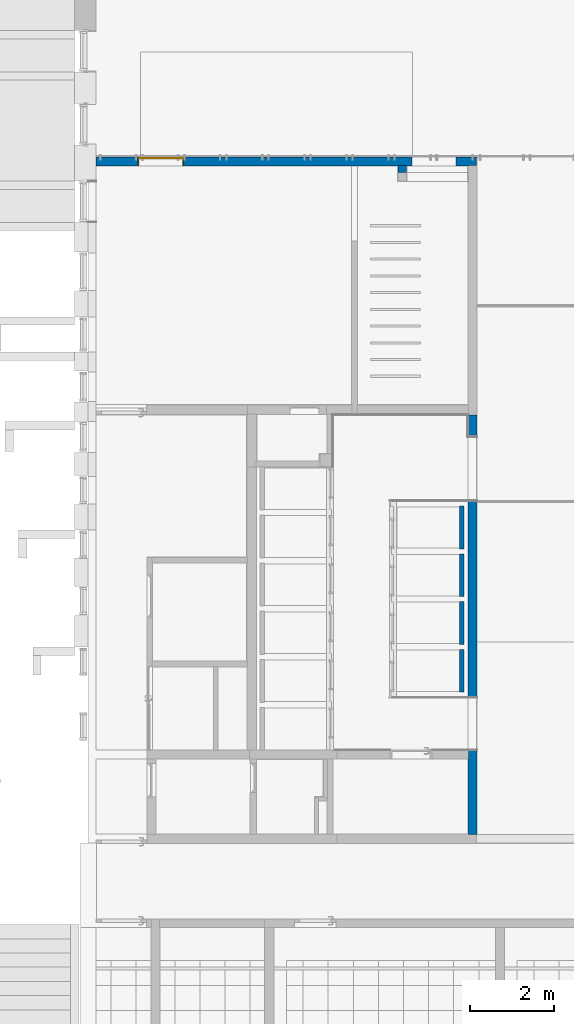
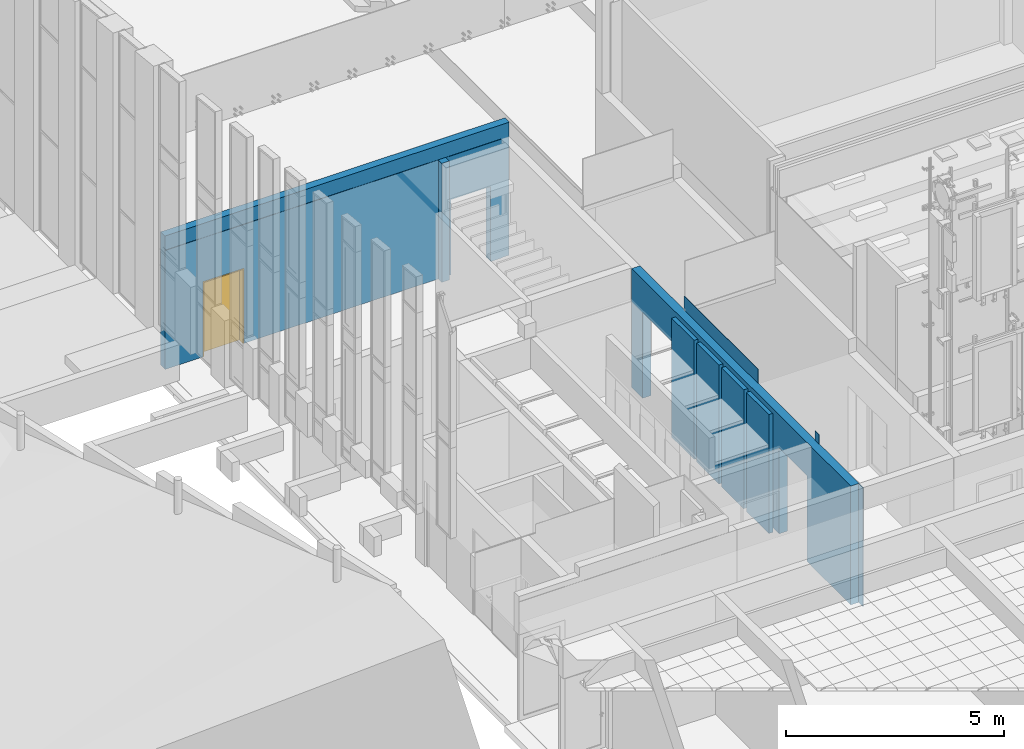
# One storey, part 120 of 246: 7 walls, 1 door, 4 openings.
"""IFC2X3 building model written with IfcOpenShell, lengths in millimetres."""

import ifcopenshell
import ifcopenshell.guid

model = None  # the IFC model being written
_history = None  # IfcOwnerHistory: only IFC2X3 demands one
_inside = {}  # id of a spatial element -> (the spatial element, [elements in it])
_under = {}  # id of a project, library or spatial element -> (it, [spatial elements below it])
_declared = {}  # id of a project -> (the project, [libraries it declares])
_typed = {}  # id of a type object -> (the type object, [elements of that type])
_made_of = {}  # id of a material, layer set ... -> (it, [elements and type objects made of it])


def new_model(schema):
    """Start an empty IFC model of exactly this schema.

    Asked for "IFC4X3", IfcOpenShell would pick the latest addendum, in which some entities
    have other attributes; the version numbers below select the first issue.
    IFC2X3 requires an IfcOwnerHistory on every rooted entity: one is made here for all.
    """
    global model, _history
    if schema == "IFC4X3":
        model = ifcopenshell.file(schema_version=(4, 3, 0, 0))
    else:
        model = ifcopenshell.file(schema=schema)
    _inside.clear()
    _under.clear()
    _declared.clear()
    _typed.clear()
    _made_of.clear()
    _history = None
    if model.schema == "IFC2X3":
        org = make("IfcOrganization", Name="unknown")
        user = make(
            "IfcPersonAndOrganization",
            ThePerson=make("IfcPerson", FamilyName="unknown"),
            TheOrganization=org,
        )
        app = make(
            "IfcApplication",
            ApplicationDeveloper=org,
            Version="unknown",
            ApplicationFullName="unknown",
            ApplicationIdentifier="unknown",
        )
        _history = make(
            "IfcOwnerHistory",
            OwningUser=user,
            OwningApplication=app,
            ChangeAction="ADDED",
            CreationDate=0,
        )
    return model


def make(cls, **values):
    """One entity of the class cls with the attributes given. An attribute that is None is left unset."""
    return model.create_entity(
        cls, **{name: value for name, value in values.items() if value is not None}
    )


def entity(cls, *values):
    """Any entity or typed value of the class cls, its attributes in the order of the schema. None: left unset."""
    e = model.create_entity(cls)
    for i, value in enumerate(values):
        if value is not None:
            e[i] = value
    return e


def rooted(cls, **values):
    """An entity with a GlobalId (a new one), such as an element, a storey or a relation."""
    return make(cls, GlobalId=ifcopenshell.guid.new(), OwnerHistory=_history, **values)


def si_unit(unit_type, name, prefix=None):
    """IfcSIUnit, for example si_unit("LENGTHUNIT", "METRE", prefix="MILLI")."""
    return make("IfcSIUnit", UnitType=unit_type, Prefix=prefix, Name=name)


def converted_unit(unit_type, name, factor, base, dimensions=None, offset=None):
    """IfcConversionBasedUnit, such as the inch: factor (a typed value) times the base unit."""
    return make(
        "IfcConversionBasedUnit"
        if offset is None
        else "IfcConversionBasedUnitWithOffset",
        ConversionOffset=offset,
        Dimensions=None
        if dimensions is None
        else entity("IfcDimensionalExponents", *dimensions),
        UnitType=unit_type,
        Name=name,
        ConversionFactor=make(
            "IfcMeasureWithUnit", ValueComponent=factor, UnitComponent=base
        ),
    )


def derived_unit(unit_type, elements):
    """IfcDerivedUnit: a product of units, each with its exponent."""
    return make(
        "IfcDerivedUnit",
        Elements=[
            make("IfcDerivedUnitElement", Unit=unit, Exponent=power)
            for unit, power in elements
        ],
        UnitType=unit_type,
    )


def money_unit(currency):
    """IfcMonetaryUnit."""
    return make("IfcMonetaryUnit", Currency=currency)


def assignment(units):
    """IfcUnitAssignment: the units of a project."""
    return None if units is None else make("IfcUnitAssignment", Units=units)


def point(xyz):
    """IfcCartesianPoint."""
    return None if xyz is None else make("IfcCartesianPoint", Coordinates=xyz)


def direction(xyz):
    """IfcDirection."""
    return None if xyz is None else make("IfcDirection", DirectionRatios=xyz)


def frame(location, z_axis=None, x_axis=None):
    """IfcAxis2Placement3D, a coordinate frame: its origin and axes. An axis left out is left unset."""
    return make(
        "IfcAxis2Placement3D",
        Location=point(location),
        Axis=direction(z_axis),
        RefDirection=direction(x_axis),
    )


def origin_with_axes():
    """The frame at (0, 0, 0) with the z axis (0, 0, 1) and the x axis (1, 0, 0) written out."""
    return frame((0.0, 0.0, 0.0), z_axis=(0.0, 0.0, 1.0), x_axis=(1.0, 0.0, 0.0))


def place(relative_to, where):
    """IfcLocalPlacement: puts the frame where relative to a parent placement (None: the world)."""
    return make(
        "IfcLocalPlacement", PlacementRelTo=relative_to, RelativePlacement=where
    )


def context(
    kind, dimensions, precision=None, world=None, true_north=None, identifier=None
):
    """IfcGeometricRepresentationContext, for example the 3D "Model" context."""
    return make(
        "IfcGeometricRepresentationContext",
        ContextIdentifier=identifier,
        ContextType=kind,
        CoordinateSpaceDimension=dimensions,
        Precision=precision,
        WorldCoordinateSystem=world,
        TrueNorth=true_north,
    )


def subcontext(parent, identifier, kind, view, scale=None):
    """IfcGeometricRepresentationSubContext, for example "Body" below "Model"."""
    return make(
        "IfcGeometricRepresentationSubContext",
        ContextIdentifier=identifier,
        ContextType=kind,
        ParentContext=parent,
        TargetScale=scale,
        TargetView=view,
    )


def project(units=None, contexts=None):
    """IfcProject with its units and contexts."""
    return rooted(
        "IfcProject",
        Name="project",
        RepresentationContexts=contexts,
        UnitsInContext=assignment(units),
    )


def spatial(cls, under=None, at=None, **own):
    """A site, building, storey or space (cls), placed at a placement, below another one or the project."""
    s = rooted(cls, ObjectPlacement=at, **own)
    if under is not None:
        _under.setdefault(under.id(), (under, []))[1].append(s)
    return s


def faces_of(points, faces, orient=None, outer=None):
    """IfcFace entities. A face is a list of loops; a loop is a list of indices into points, from 0.

    orient and outer hold one flag for each loop. By default every Orientation is true, the
    first loop of a face is its IfcFaceOuterBound and the others are IfcFaceBound.
    """
    made = []
    for i, loops in enumerate(faces):
        bounds = []
        for j, loop in enumerate(loops):
            is_outer = j == 0 if outer is None else outer[i][j]
            bounds.append(
                make(
                    "IfcFaceOuterBound" if is_outer else "IfcFaceBound",
                    Bound=make("IfcPolyLoop", Polygon=[points[k] for k in loop]),
                    Orientation=True if orient is None else orient[i][j],
                )
            )
        made.append(make("IfcFace", Bounds=bounds))
    return made


def faceted_brep(points, faces, orient=None, outer=None, voids=None):
    """IfcFacetedBrep: a solid bounded by flat faces; with voids (closed shells), ...WithVoids."""
    shared = [point(p) for p in points]
    hull = make("IfcClosedShell", CfsFaces=faces_of(shared, faces, orient, outer))
    if voids is None:
        return make("IfcFacetedBrep", Outer=hull)
    return make(
        "IfcFacetedBrepWithVoids",
        Outer=hull,
        Voids=[
            make(cls, CfsFaces=faces_of(shared, fs, o, b)) for cls, fs, o, b in voids
        ],
    )


def shape(context_of_items, identifier, shape_type, items):
    """IfcShapeRepresentation: the items that make up one representation, for example the "Body"."""
    return make(
        "IfcShapeRepresentation",
        ContextOfItems=context_of_items,
        RepresentationIdentifier=identifier,
        RepresentationType=shape_type,
        Items=items,
    )


def material(Name=None, Category=None):
    """IfcMaterial."""
    return make("IfcMaterial", Name=Name, Category=Category)


def material_list(materials):
    """IfcMaterialList."""
    return make("IfcMaterialList", Materials=materials)


def made_of(thing, what):
    """Note that an element or type object is made of a material, layer set ...; save() writes the relation."""
    if what is not None:
        _made_of.setdefault(what.id(), (what, []))[1].append(thing)
    return thing


def type_object(cls, material=None, **own):
    """A type object (cls), such as IfcWallType, which elements share."""
    return made_of(rooted(cls, **own), material)


def element(
    cls,
    number,
    at=None,
    inside=None,
    cuts=None,
    type_object=None,
    material=None,
    context=None,
    identifier="Body",
    shape_type=None,
    held_by="IfcProductDefinitionShape",
    body=None,
    shapes=None,
    **own,
):
    """One element of the class cls, such as IfcWall. Its Tag is "e" and its number.

    at: its placement. inside: the storey or other place that contains it. cuts: it is an
    opening in that element (IfcRelVoidsElement). A single representation is given by context,
    identifier, shape_type and body (its items); several are given by shapes. held_by: the class
    of the entity that holds the representations. save() writes the other relations.
    """
    e = rooted(cls, Tag="e%d" % number, ObjectPlacement=at, **own)
    if body is not None:
        shapes = [shape(context, identifier, shape_type, body)]
    if shapes is not None:
        e.Representation = make(held_by, Representations=shapes)
    if inside is not None:
        _inside.setdefault(inside.id(), (inside, []))[1].append(e)
    if cuts is not None:
        rooted(
            "IfcRelVoidsElement", RelatingBuildingElement=cuts, RelatedOpeningElement=e
        )
    if type_object is not None:
        _typed.setdefault(type_object.id(), (type_object, []))[1].append(e)
    return made_of(e, material)


def fill(opening, filler):
    """IfcRelFillsElement: the door or window that sits in an opening."""
    return rooted(
        "IfcRelFillsElement",
        RelatingOpeningElement=opening,
        RelatedBuildingElement=filler,
    )


def aggregate(whole, parts):
    """IfcRelAggregates: a whole, such as a stair, and the parts it consists of."""
    return rooted("IfcRelAggregates", RelatingObject=whole, RelatedObjects=parts)


def save(model, path):
    """Write the relations noted so far, then the file.

    IfcRelAggregates (storeys below a building ...), IfcRelContainedInSpatialStructure (elements
    in a storey), IfcRelDefinesByType, IfcRelAssociatesMaterial and IfcRelDeclares: one each for
    every whole, place, type object, material and project.
    """
    for whole, parts in _under.values():
        aggregate(whole, parts)
    for where, things in _inside.values():
        rooted(
            "IfcRelContainedInSpatialStructure",
            RelatedElements=things,
            RelatingStructure=where,
        )
    for kind, things in _typed.values():
        rooted("IfcRelDefinesByType", RelatedObjects=things, RelatingType=kind)
    for what, things in _made_of.values():
        rooted("IfcRelAssociatesMaterial", RelatedObjects=things, RelatingMaterial=what)
    for by, libraries in _declared.values():
        rooted("IfcRelDeclares", RelatingContext=by, RelatedDefinitions=libraries)
    model.write(path)


model = new_model("IFC2X3")

# Units and contexts
model_context = context("Model", 3, precision=0.01, world=origin_with_axes(), true_north=direction((0.0, 1.0)))
body_context = subcontext(model_context, "Body", "Model", "MODEL_VIEW")
ifc_project = project(units=[si_unit("LENGTHUNIT", "METRE", prefix="MILLI"), si_unit("AREAUNIT", "SQUARE_METRE"), si_unit("VOLUMEUNIT", "CUBIC_METRE"), converted_unit("PLANEANGLEUNIT", "DEGREE", entity("IfcPlaneAngleMeasure", 0.0174532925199), si_unit("PLANEANGLEUNIT", "RADIAN"), dimensions=[0, 0, 0, 0, 0, 0, 0]), si_unit("SOLIDANGLEUNIT", "STERADIAN"), money_unit("EUR"), converted_unit("TIMEUNIT", "Year", entity("IfcTimeMeasure", 31556926.0), si_unit("TIMEUNIT", "SECOND"), dimensions=[0, 0, 1, 0, 0, 0, 0]), si_unit("MASSUNIT", "GRAM", prefix="KILO"), si_unit("THERMODYNAMICTEMPERATUREUNIT", "DEGREE_CELSIUS"), si_unit("LUMINOUSINTENSITYUNIT", "LUMEN"), si_unit("ENERGYUNIT", "JOULE", prefix="MEGA"), derived_unit("THERMALCONDUCTANCEUNIT", [(si_unit("POWERUNIT", "WATT"), 1), (si_unit("LENGTHUNIT", "METRE"), -1), (si_unit("THERMODYNAMICTEMPERATUREUNIT", "KELVIN"), -1)]), derived_unit("SPECIFICHEATCAPACITYUNIT", [(si_unit("ENERGYUNIT", "JOULE"), 1), (si_unit("MASSUNIT", "GRAM", prefix="KILO"), -1), (si_unit("THERMODYNAMICTEMPERATUREUNIT", "KELVIN"), -1)]), derived_unit("MASSDENSITYUNIT", [(si_unit("MASSUNIT", "GRAM", prefix="KILO"), 1), (si_unit("VOLUMEUNIT", "CUBIC_METRE"), -1)])], contexts=[model_context])

# Site, building, storey
site_placement = place(None, origin_with_axes())
site = spatial("IfcSite", under=ifc_project, at=site_placement, Name="L.Koidula tn 11b", CompositionType="ELEMENT")
building_placement = place(site_placement, origin_with_axes())
building = spatial("IfcBuilding", under=site, at=building_placement, Name="Rakvere Riigigümnaasium", CompositionType="ELEMENT")
storey_placement = place(building_placement, origin_with_axes())
storey = spatial("IfcBuildingStorey", under=building, at=storey_placement, Name="1.korrus 0,00", CompositionType="ELEMENT", Elevation=0.0)

# Wall
ifc_material_1 = material(Name="Betoon element / plaat")
wall_type_1 = type_object("IfcWallType", Name="SS-01 200", PredefinedType="NOTDEFINED")
wall_1_placement = place(storey_placement, frame((42919.9999911, 31500.4555111, 0.0), z_axis=(0.0, 0.0, 1.0), x_axis=(0.0, -1.0, 0.0)))
element("IfcWall", 1, at=wall_1_placement, inside=storey, type_object=wall_type_1, material=ifc_material_1, Name="Sisesein", context=body_context, shape_type="Brep", body=[
    faceted_brep([(200.0, -200.0, 0.0), (199.999917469, -200.0, 3325.0), (199.999917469, 0.0, 3325.0), (200.0, 0.0, 0.0), (370.0, -200.0, 0.0), (370.0, -200.0, 3325.0), (370.0, 0.0, 3325.0), (370.0, 0.0, 0.0)], [[[0, 1, 2, 3]], [[4, 5, 1, 0]], [[5, 6, 2, 1]], [[3, 2, 6, 7]], [[0, 3, 7, 4]], [[7, 6, 5, 4]]]),
])

# Wall, openings
ifc_material_2 = material(Name="siseviimistlus-seinad")
ifc_material_list_1 = material_list([ifc_material_2, ifc_material_1, ifc_material_2])
wall_type_2 = type_object("IfcWallType", Name="SS-01-2 220", PredefinedType="NOTDEFINED")
wall_2_placement = place(storey_placement, frame((44599.9999911, 25330.4523469, 0.0), z_axis=(0.0, 0.0, 1.0), x_axis=(0.0, -1.0, 0.0)))
wall_2 = element("IfcWall", 2, at=wall_2_placement, inside=storey, type_object=wall_type_2, material=ifc_material_list_1, Name="Sisesein", context=body_context, shape_type="Brep", body=[
    faceted_brep([(2054.98099467, 10.0, 0.0), (2054.98099467, 10.0, 2400.0), (504.980994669, 10.0, 2400.0), (504.980994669, 10.0, 0.0), (0.0, 10.0, 0.0), (0.0, 10.0, 3325.0), (2039.98106153, 10.0, 3325.0), (2039.98106153, 10.0, 3720.0), (5430.23332555, 10.0, 3720.0), (5430.23332555, 10.0, 3325.0), (8019.99696877, 10.0, 3325.0), (8019.99683744, 10.0, 3590.0), (8219.99683465, 10.0, 3590.0), (8219.99683465, 10.0, 3325.0), (10229.9738167, 10.0, 3325.0), (10229.9738167, 10.0, 0.0), (8019.9967918, 10.0, 0.0), (8019.9967918, 10.0, 2400.0), (6749.99683465, 10.0, 2400.0), (6749.99683465, 10.0, 0.0), (2054.98099467, 0.0, 0.0), (2054.98099467, 0.0, 2400.0), (504.980994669, 0.0, 2400.0), (504.980994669, 0.0, 0.0), (0.0, 0.0, 0.0), (0.0, 0.0, 3325.0), (2039.98106153, 0.000143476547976, 3325.0), (2039.98106153, 0.000143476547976, 3720.0), (5430.23332555, 0.000143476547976, 3720.0), (5430.23332555, 0.000143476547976, 3325.0), (8019.99696877, 0.0, 3325.0), (8019.99683744, 0.0, 3590.0), (8219.99683465, 0.0, 3590.0), (8219.99683465, 0.0, 3325.0), (10229.9738167, 0.0, 3325.0), (10229.9738167, 0.0, 0.0), (8019.9967918, 0.0, 0.0), (8019.9967918, 0.0, 2400.0), (6749.99683465, 0.0, 2400.0), (6749.99683465, 0.0, 0.0)], [[[0, 1, 2, 3, 4, 5, 6, 7, 8, 9, 10, 11, 12, 13, 14, 15, 16, 17, 18, 19]], [[1, 0, 20, 21]], [[2, 1, 21, 22]], [[3, 2, 22, 23]], [[3, 23, 24, 4]], [[4, 24, 25, 5]], [[25, 26, 6, 5]], [[27, 7, 6, 26]], [[28, 8, 7, 27]], [[9, 8, 28, 29]], [[29, 30, 10, 9]], [[10, 30, 31, 11]], [[11, 31, 32, 12]], [[32, 33, 13, 12]], [[33, 34, 14, 13]], [[35, 15, 14, 34]], [[16, 15, 35, 36]], [[16, 36, 37, 17]], [[17, 37, 38, 18]], [[18, 38, 39, 19]], [[20, 0, 19, 39]], [[21, 20, 39, 38, 37, 36, 35, 34, 33, 32, 31, 30, 29, 28, 27, 26, 25, 24, 23, 22]]]),
    faceted_brep([(2054.98099467, 0.0, 0.0), (2054.98099467, 0.0, 2400.0), (504.980994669, 0.0, 2400.0), (504.980994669, 0.0, 0.0), (0.0, 0.0, 0.0), (0.0, 0.0, 3325.0), (2039.98106153, 0.000143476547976, 3325.0), (5430.23332555, 0.000143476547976, 3325.0), (10029.9738167, 0.0, 3325.0), (10029.9738167, 0.0, 0.0), (8019.9967918, 0.0, 0.0), (8019.9967918, 0.0, 2400.0), (6749.99683465, 0.0, 2400.0), (6749.99683465, 0.0, 0.0), (2054.98099467, -200.0, 0.0), (2054.98099467, -200.0, 2400.0), (504.980994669, -200.0, 2400.0), (504.980994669, -200.0, 0.0), (0.0, -200.0, 0.0), (0.0, -200.0, 3325.0), (10029.9738167, -200.0, 3325.0), (10029.9738167, -200.0, 0.0), (8019.9967918, -200.0, 0.0), (8019.9967918, -200.0, 2400.0), (6749.99683465, -200.0, 2400.0), (6749.99683465, -200.0, 0.0)], [[[0, 1, 2, 3, 4, 5, 6, 7, 8, 9, 10, 11, 12, 13]], [[1, 0, 14, 15]], [[2, 1, 15, 16]], [[3, 2, 16, 17]], [[3, 17, 18, 4]], [[4, 18, 19, 5]], [[19, 20, 8, 7, 6, 5]], [[21, 9, 8, 20]], [[10, 9, 21, 22]], [[10, 22, 23, 11]], [[11, 23, 24, 12]], [[12, 24, 25, 13]], [[14, 0, 13, 25]], [[15, 14, 25, 24, 23, 22, 21, 20, 19, 18, 17, 16]]]),
    faceted_brep([(8219.99683465, -210.0, 3325.0), (8219.99683465, -200.0, 3325.0), (8219.99683465, -200.0, 0.0), (8219.99683465, -210.0, 0.0), (10019.9738167, -200.0, 3325.0), (10019.9738167, -210.0, 3325.0), (10019.9738167, -200.0, 0.0), (10019.9738167, -210.0, 0.0)], [[[0, 1, 2, 3]], [[4, 1, 0, 5]], [[1, 4, 6, 2]], [[6, 7, 3, 2]], [[5, 0, 3, 7]], [[4, 5, 7, 6]]]),
    faceted_brep([(2054.98099467, -200.0, 0.0), (2054.98099467, -200.0, 2400.0), (504.980994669, -200.0, 2400.0), (504.980994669, -200.0, 0.0), (0.0, -200.0, 0.0), (0.0, -200.0, 3325.0), (8019.99696877, -200.0, 3325.0), (8019.9967918, -200.0, 2400.0), (6749.99683465, -200.0, 2400.0), (6749.99683465, -200.0, 0.0), (2054.98099467, -210.0, 0.0), (2054.98099467, -210.0, 2400.0), (504.980994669, -210.0, 2400.0), (504.980994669, -210.0, 0.0), (0.0, -210.0, 0.0), (0.0, -210.0, 3325.0), (8019.99696877, -210.0, 3325.0), (8019.9967918, -210.0, 2400.0), (6749.99683465, -210.0, 2400.0), (6749.99683465, -210.0, 0.0)], [[[0, 1, 2, 3, 4, 5, 6, 7, 8, 9]], [[1, 0, 10, 11]], [[2, 1, 11, 12]], [[3, 2, 12, 13]], [[3, 13, 14, 4]], [[4, 14, 15, 5]], [[16, 6, 5, 15]], [[7, 6, 16, 17]], [[7, 17, 18, 8]], [[8, 18, 19, 9]], [[10, 0, 9, 19]], [[11, 10, 19, 18, 17, 16, 15, 14, 13, 12]]]),
])
opening_1_placement = place(wall_2_placement, frame((7384.99681323, 0.0, 0.0), z_axis=(0.0, 0.0, 1.0), x_axis=(1.0, 0.0, 0.0)))
element("IfcOpeningElement", 3, at=opening_1_placement, cuts=wall_2, Name="ava", context=body_context, shape_type="Brep", body=[
    faceted_brep([(-634.999978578, -220.0, 0.0), (-634.999978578, -220.0, 2400.0), (-634.999978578, 440.0, 2400.0), (-634.999978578, 440.0, 0.0), (634.999978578, -220.0, 0.0), (634.999978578, -220.0, 2400.0), (634.999978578, 440.0, 2400.0), (634.999978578, 440.0, 0.0)], [[[0, 1, 2, 3]], [[0, 4, 5, 1]], [[1, 5, 6, 2]], [[3, 2, 6, 7]], [[4, 0, 3, 7]], [[5, 4, 7, 6]]]),
])
opening_2_placement = place(wall_2_placement, frame((1279.98099467, 0.0, 0.0), z_axis=(0.0, 0.0, 1.0), x_axis=(1.0, 0.0, 0.0)))
element("IfcOpeningElement", 4, at=opening_2_placement, cuts=wall_2, Name="ava", context=body_context, shape_type="Brep", body=[
    faceted_brep([(-775.0, -220.0, 0.0), (-775.0, -220.0, 2400.0), (-775.0, 440.0, 2400.0), (-775.0, 440.0, 0.0), (775.0, -220.0, 0.0), (775.0, -220.0, 2400.0), (775.0, 440.0, 2400.0), (775.0, 440.0, 0.0)], [[[0, 1, 2, 3]], [[0, 4, 5, 1]], [[1, 5, 6, 2]], [[3, 2, 6, 7]], [[4, 0, 3, 7]], [[5, 4, 7, 6]]]),
])

# Wall, openings, door
ifc_material_list_2 = material_list([ifc_material_2, ifc_material_1])
wall_type_3 = type_object("IfcWallType", Name="SS-01-1 210", PredefinedType="NOTDEFINED")
wall_3_placement = place(storey_placement, frame((44599.9999911, 31500.4555111, 0.0), z_axis=(0.0, 0.0, 1.0), x_axis=(-1.0, 0.0, 0.0)))
wall_3 = element("IfcWall", 5, at=wall_3_placement, inside=storey, type_object=wall_type_3, material=ifc_material_list_2, Name="Sisesein", context=body_context, shape_type="Brep", body=[
    faceted_brep([(8099.99999994, 199.999917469, 2100.0), (8099.99999994, 200.0, 0.0), (9099.99993896, 200.0, 0.0), (9099.99993896, 199.999917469, 3325.0), (1880.0, 199.999917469, 3325.0), (1880.0, 200.0, 0.0), (7009.99999994, 200.0, 0.0), (7009.99999994, 199.999917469, 2100.0), (8099.99999994, 210.0, 2100.0), (8099.99999994, 210.0, 0.0), (9099.99993896, 210.0, 0.0), (9099.99993896, 210.0, 3325.0), (1880.0, 210.0, 3325.0), (1880.0, 210.0, 0.0), (7009.99999994, 210.0, 0.0), (7009.99999994, 210.0, 2100.0)], [[[0, 1, 2, 3, 4, 5, 6, 7]], [[1, 0, 8, 9]], [[1, 9, 10, 2]], [[3, 2, 10, 11]], [[4, 3, 11, 12]], [[12, 13, 5, 4]], [[14, 6, 5, 13]], [[7, 6, 14, 15]], [[0, 7, 15, 8]], [[15, 14, 13, 12, 11, 10, 9, 8]]]),
    faceted_brep([(1544.99999989, 199.999917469, 2100.0), (1544.99999989, 200.0, 0.0), (1680.0, 200.0, 0.0), (1680.0, 199.999917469, 3325.0), (200.0, 199.999917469, 3325.0), (200.0, 200.0, 0.0), (494.999999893, 200.0, 0.0), (494.999999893, 199.999917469, 2100.0), (1544.99999989, 210.0, 2100.0), (1544.99999989, 210.0, 0.0), (1680.0, 210.0, 0.0), (1680.0, 210.0, 3325.0), (200.0, 210.0, 3325.0), (200.0, 210.0, 0.0), (494.999999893, 210.0, 0.0), (494.999999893, 210.0, 2100.0)], [[[0, 1, 2, 3, 4, 5, 6, 7]], [[1, 0, 8, 9]], [[1, 9, 10, 2]], [[3, 2, 10, 11]], [[4, 3, 11, 12]], [[12, 13, 5, 4]], [[14, 6, 5, 13]], [[7, 6, 14, 15]], [[0, 7, 15, 8]], [[15, 14, 13, 12, 11, 10, 9, 8]]]),
    faceted_brep([(1544.99999989, 0.0, 2100.0), (1544.99999989, 0.0, 0.0), (7009.99999994, 0.0, 0.0), (7009.99999994, 0.0, 2100.0), (8099.99999994, 0.0, 2100.0), (8099.99999994, 0.0, 0.0), (9099.99993896, 0.0, 0.0), (9099.99993896, 0.0, 3720.0), (0.0, 0.0, 3720.0), (0.0, 0.0, 0.0), (494.999999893, 0.0, 0.0), (494.999999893, 0.0, 2100.0), (1544.99999989, 200.0, 2100.0), (1544.99999989, 200.0, 0.0), (7009.99999994, 200.0, 0.0), (7009.99999994, 200.0, 2100.0), (8099.99999994, 200.0, 2100.0), (8099.99999994, 200.0, 0.0), (9099.99993896, 200.0, 0.0), (9099.99993896, 200.0, 3720.0), (0.0, 200.0, 3720.0), (0.0, 200.0, 0.0), (494.999999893, 200.0, 0.0), (494.999999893, 200.0, 2100.0)], [[[0, 1, 2, 3, 4, 5, 6, 7, 8, 9, 10, 11]], [[1, 0, 12, 13]], [[1, 13, 14, 2]], [[2, 14, 15, 3]], [[3, 15, 16, 4]], [[4, 16, 17, 5]], [[17, 18, 6, 5]], [[7, 6, 18, 19]], [[19, 20, 8, 7]], [[8, 20, 21, 9]], [[22, 10, 9, 21]], [[11, 10, 22, 23]], [[0, 11, 23, 12]], [[23, 22, 21, 20, 19, 18, 17, 16, 15, 14, 13, 12]]]),
])
opening_3_placement = place(wall_3_placement, frame((7554.99999994, 0.0, 0.0), z_axis=(0.0, 0.0, 1.0), x_axis=(1.0, 0.0, 0.0)))
opening_3 = element("IfcOpeningElement", 6, at=opening_3_placement, cuts=wall_3, Name="SU-007", context=body_context, shape_type="Brep", body=[
    faceted_brep([(545.0, 210.0, 0.0), (545.0, 210.0, 2100.0), (545.0, -420.0, 2100.0), (545.0, -420.0, 0.0), (-545.0, 210.0, 0.0), (-545.0, 210.0, 2100.0), (-545.0, -420.0, 2100.0), (-545.0, -420.0, 0.0)], [[[0, 1, 2, 3]], [[0, 4, 5, 1]], [[1, 5, 6, 2]], [[3, 2, 6, 7]], [[4, 0, 3, 7]], [[5, 4, 7, 6]]]),
])
opening_4_placement = place(wall_3_placement, frame((1019.99999989, 0.0, 0.0), z_axis=(0.0, 0.0, 1.0), x_axis=(1.0, 0.0, 0.0)))
element("IfcOpeningElement", 7, at=opening_4_placement, cuts=wall_3, Name="ava", context=body_context, shape_type="Brep", body=[
    faceted_brep([(525.0, 210.0, 0.0), (525.0, 210.0, 2100.0), (525.0, -420.0, 2100.0), (525.0, -420.0, 0.0), (-525.0, 210.0, 0.0), (-525.0, 210.0, 2100.0), (-525.0, -420.0, 2100.0), (-525.0, -420.0, 0.0)], [[[0, 1, 2, 3]], [[0, 4, 5, 1]], [[1, 5, 6, 2]], [[3, 2, 6, 7]], [[4, 0, 3, 7]], [[5, 4, 7, 6]]]),
])
door_style = type_object("IfcDoorStyle", Name="Door 23", ConstructionType="NOTDEFINED", OperationType="SINGLE_SWING_RIGHT", ParameterTakesPrecedence=False, Sizeable=False)
door_placement = place(opening_3_placement, frame((-545.0, 0.0, 0.0), z_axis=(0.0, 0.0, 1.0), x_axis=(1.0, 0.0, 0.0)))
door = element("IfcDoor", 8, at=door_placement, inside=storey, type_object=door_style, Name="SU-007", ObjectType="DOOR", OverallHeight=2100.0, OverallWidth=1090.0, context=body_context, shape_type="Brep", body=[
    faceted_brep([(0.0, 40.0, 0.0), (0.0, 210.0, 0.0), (30.0, 210.0, 0.0), (30.0, 40.0, 0.0), (0.0, 40.0, 2100.0), (0.0, 210.0, 2100.0), (30.0, 210.0, 2070.0), (30.0, 40.0, 2070.0)], [[[0, 1, 2, 3]], [[4, 5, 1, 0]], [[1, 5, 6, 2]], [[3, 2, 6, 7]], [[0, 3, 7, 4]], [[7, 6, 5, 4]]]),
    faceted_brep([(1090.0, 40.0, 2100.0), (1090.0, 210.0, 2100.0), (1060.0, 210.0, 2070.0), (1060.0, 40.0, 2070.0), (1090.0, 40.0, 0.0), (1090.0, 210.0, 0.0), (1060.0, 210.0, 0.0), (1060.0, 40.0, 0.0)], [[[0, 1, 2, 3]], [[4, 5, 1, 0]], [[1, 5, 6, 2]], [[3, 2, 6, 7]], [[0, 3, 7, 4]], [[7, 6, 5, 4]]]),
    faceted_brep([(30.0, 40.0, 2070.0), (30.0, 210.0, 2070.0), (1060.0, 210.0, 2070.0), (1060.0, 40.0, 2070.0), (0.0, 40.0, 2100.0), (0.0, 210.0, 2100.0), (1090.0, 210.0, 2100.0), (1090.0, 40.0, 2100.0)], [[[0, 1, 2, 3]], [[4, 5, 1, 0]], [[1, 5, 6, 2]], [[3, 2, 6, 7]], [[0, 3, 7, 4]], [[7, 6, 5, 4]]]),
    faceted_brep([(0.0, 40.0, 0.0), (45.0, 40.0, 0.0), (45.0, 0.0, 0.0), (0.0, 0.0, 0.0), (0.0, 40.0, 2055.0), (45.0, 40.0, 2055.0), (45.0, 0.0, 2055.0), (0.0, 0.0, 2055.0)], [[[0, 1, 2, 3]], [[0, 4, 5, 1]], [[1, 5, 6, 2]], [[3, 2, 6, 7]], [[4, 0, 3, 7]], [[5, 4, 7, 6]]]),
    faceted_brep([(1090.0, 40.0, 0.0), (1090.0, 40.0, 2055.0), (1090.0, 0.0, 2055.0), (1090.0, 0.0, 0.0), (1045.0, 40.0, 0.0), (1045.0, 40.0, 2055.0), (1045.0, 0.0, 2055.0), (1045.0, 0.0, 0.0)], [[[0, 1, 2, 3]], [[0, 4, 5, 1]], [[1, 5, 6, 2]], [[3, 2, 6, 7]], [[4, 0, 3, 7]], [[5, 4, 7, 6]]]),
    faceted_brep([(0.0, 40.0, 2100.0), (0.0, 40.0, 2055.0), (0.0, 0.0, 2055.0), (0.0, 0.0, 2100.0), (1090.0, 40.0, 2100.0), (1090.0, 40.0, 2055.0), (1045.0, 40.0, 2055.0), (45.0, 40.0, 2055.0), (45.0, 0.0, 2055.0), (1045.0, 0.0, 2055.0), (1090.0, 0.0, 2055.0), (1090.0, 0.0, 2100.0)], [[[0, 1, 2, 3]], [[0, 4, 5, 6, 7, 1]], [[1, 7, 8, 2]], [[3, 2, 8, 9, 10, 11]], [[4, 0, 3, 11]], [[5, 4, 11, 10]], [[6, 5, 10, 9]], [[7, 6, 9, 8]]]),
    faceted_brep([(1045.0, 40.0, 0.0), (1045.0, 0.0, 0.0), (45.0, 0.0, 0.0), (45.0, 40.0, 0.0), (1045.0, 40.0, 2055.0), (1045.0, 0.0, 2055.0), (45.0, 0.0, 2055.0), (45.0, 40.0, 2055.0)], [[[0, 1, 2, 3]], [[4, 5, 1, 0]], [[1, 5, 6, 2]], [[3, 2, 6, 7]], [[0, 3, 7, 4]], [[7, 6, 5, 4]]]),
])
fill(opening_3, door)

# Walls
ifc_material_3 = material(Name="Keraamiline plaat")
ifc_material_4 = material(Name="Kipsplaat")
ifc_material_5 = material(Name="mineraalvill+karkass")
ifc_material_list_3 = material_list([ifc_material_3, ifc_material_4, ifc_material_4, ifc_material_5])
wall_type_4 = type_object("IfcWallType", Name="SS-09 107", PredefinedType="NOTDEFINED")
wall_4_placement = place(storey_placement, frame((44189.9999911, 18705.4555123, 0.0), z_axis=(0.0, 0.0, 1.0), x_axis=(0.0, 1.0, 0.0)))
element("IfcWall", 9, at=wall_4_placement, inside=storey, type_object=wall_type_4, material=ifc_material_list_3, Name="Sisesein", context=body_context, shape_type="Brep", body=[
    faceted_brep([(1025.0, 0.0, 3325.0), (1025.0, -15.0, 3325.0), (1025.0, -15.0, 0.0), (1025.0, 0.0, 0.0), (0.0, -15.0, 3325.0), (0.0, 0.0, 3325.0), (0.0, -15.0, 0.0), (0.0, 0.0, 0.0)], [[[0, 1, 2, 3]], [[4, 1, 0, 5]], [[1, 4, 6, 2]], [[7, 3, 2, 6]], [[5, 0, 3, 7]], [[4, 5, 7, 6]]]),
    faceted_brep([(1025.0, -15.0, 3325.0), (1025.0, -28.0, 3325.0), (1025.0, -28.0, 0.0), (1025.0, -15.0, 0.0), (0.0, -28.0, 3325.0), (0.0, -15.0, 3325.0), (0.0, -28.0, 0.0), (0.0, -15.0, 0.0)], [[[0, 1, 2, 3]], [[4, 1, 0, 5]], [[1, 4, 6, 2]], [[7, 3, 2, 6]], [[5, 0, 3, 7]], [[4, 5, 7, 6]]]),
    faceted_brep([(1025.0, -28.0, 3325.0), (1025.0, -40.5, 3325.0), (1025.0, -40.5, 0.0), (1025.0, -28.0, 0.0), (0.0, -40.5, 3325.0), (0.0, -28.0, 3325.0), (0.0, -40.5, 0.0), (0.0, -28.0, 0.0)], [[[0, 1, 2, 3]], [[4, 1, 0, 5]], [[1, 4, 6, 2]], [[7, 3, 2, 6]], [[5, 0, 3, 7]], [[4, 5, 7, 6]]]),
    faceted_brep([(1025.0, -40.5, 3325.0), (1025.0, -106.5, 3325.0), (1025.0, -106.5, 0.0), (1025.0, -40.5, 0.0), (0.0, -106.5, 3325.0), (0.0, -40.5, 3325.0), (0.0, -106.5, 0.0), (0.0, -40.5, 0.0)], [[[0, 1, 2, 3]], [[4, 1, 0, 5]], [[1, 4, 6, 2]], [[7, 3, 2, 6]], [[5, 0, 3, 7]], [[4, 5, 7, 6]]]),
])
wall_5_placement = place(storey_placement, frame((44189.9999911, 22130.4555123, 0.0), z_axis=(0.0, 0.0, 1.0), x_axis=(0.0, 1.0, 0.0)))
element("IfcWall", 10, at=wall_5_placement, inside=storey, type_object=wall_type_4, material=ifc_material_list_3, Name="Sisesein", context=body_context, shape_type="Brep", body=[
    faceted_brep([(1025.01583998, 0.0, 3325.0), (1025.01583998, -15.0, 3325.0), (1025.01583998, -15.0, 0.0), (1025.01583998, 0.0, 0.0), (0.0, -15.0, 3325.0), (0.0, 0.0, 3325.0), (0.0, -15.0, 0.0), (0.0, 0.0, 0.0)], [[[0, 1, 2, 3]], [[4, 1, 0, 5]], [[1, 4, 6, 2]], [[7, 3, 2, 6]], [[5, 0, 3, 7]], [[4, 5, 7, 6]]]),
    faceted_brep([(1025.01583998, -15.0, 3325.0), (1025.01583998, -28.0, 3325.0), (1025.01583998, -28.0, 0.0), (1025.01583998, -15.0, 0.0), (0.0, -28.0, 3325.0), (0.0, -15.0, 3325.0), (0.0, -28.0, 0.0), (0.0, -15.0, 0.0)], [[[0, 1, 2, 3]], [[4, 1, 0, 5]], [[1, 4, 6, 2]], [[7, 3, 2, 6]], [[5, 0, 3, 7]], [[4, 5, 7, 6]]]),
    faceted_brep([(1025.01583998, -28.0, 3325.0), (1025.01583998, -40.5, 3325.0), (1025.01583998, -40.5, 0.0), (1025.01583998, -28.0, 0.0), (0.0, -40.5, 3325.0), (0.0, -28.0, 3325.0), (0.0, -40.5, 0.0), (0.0, -28.0, 0.0)], [[[0, 1, 2, 3]], [[4, 1, 0, 5]], [[1, 4, 6, 2]], [[7, 3, 2, 6]], [[5, 0, 3, 7]], [[4, 5, 7, 6]]]),
    faceted_brep([(1025.01583998, -40.5, 3325.0), (1025.01583998, -106.5, 3325.0), (1025.01583998, -106.5, 0.0), (1025.01583998, -40.5, 0.0), (0.0, -106.5, 3325.0), (0.0, -40.5, 3325.0), (0.0, -106.5, 0.0), (0.0, -40.5, 0.0)], [[[0, 1, 2, 3]], [[4, 1, 0, 5]], [[1, 4, 6, 2]], [[7, 3, 2, 6]], [[5, 0, 3, 7]], [[4, 5, 7, 6]]]),
])
for number, where, z_axis, x_axis in (
    (11, (44189.9999911, 20990.4555123, 0.0), (0.0, 0.0, 1.0), (0.0, 1.0, 0.0)),
    (12, (44189.9999911, 19850.4555123, 0.0), (0.0, 0.0, 1.0), (0.0, 1.0, 0.0)),
):
    element("IfcWall", number, at=place(storey_placement, frame(where, z_axis=z_axis, x_axis=x_axis)), inside=storey, type_object=wall_type_4, material=ifc_material_list_3, Name="Sisesein", context=body_context, shape_type="Brep", body=[
        faceted_brep([(1020.0, 0.0, 3325.0), (1020.0, -15.0, 3325.0), (1020.0, -15.0, 0.0), (1020.0, 0.0, 0.0), (0.0, -15.0, 3325.0), (0.0, 0.0, 3325.0), (0.0, -15.0, 0.0), (0.0, 0.0, 0.0)], [[[0, 1, 2, 3]], [[4, 1, 0, 5]], [[1, 4, 6, 2]], [[7, 3, 2, 6]], [[5, 0, 3, 7]], [[4, 5, 7, 6]]]),
        faceted_brep([(1020.0, -15.0, 3325.0), (1020.0, -28.0, 3325.0), (1020.0, -28.0, 0.0), (1020.0, -15.0, 0.0), (0.0, -28.0, 3325.0), (0.0, -15.0, 3325.0), (0.0, -28.0, 0.0), (0.0, -15.0, 0.0)], [[[0, 1, 2, 3]], [[4, 1, 0, 5]], [[1, 4, 6, 2]], [[7, 3, 2, 6]], [[5, 0, 3, 7]], [[4, 5, 7, 6]]]),
        faceted_brep([(1020.0, -28.0, 3325.0), (1020.0, -40.5, 3325.0), (1020.0, -40.5, 0.0), (1020.0, -28.0, 0.0), (0.0, -40.5, 3325.0), (0.0, -28.0, 3325.0), (0.0, -40.5, 0.0), (0.0, -28.0, 0.0)], [[[0, 1, 2, 3]], [[4, 1, 0, 5]], [[1, 4, 6, 2]], [[7, 3, 2, 6]], [[5, 0, 3, 7]], [[4, 5, 7, 6]]]),
        faceted_brep([(1020.0, -40.5, 3325.0), (1020.0, -106.5, 3325.0), (1020.0, -106.5, 0.0), (1020.0, -40.5, 0.0), (0.0, -106.5, 3325.0), (0.0, -40.5, 3325.0), (0.0, -106.5, 0.0), (0.0, -40.5, 0.0)], [[[0, 1, 2, 3]], [[4, 1, 0, 5]], [[1, 4, 6, 2]], [[7, 3, 2, 6]], [[5, 0, 3, 7]], [[4, 5, 7, 6]]]),
    ])

save(model, "model.ifc")
